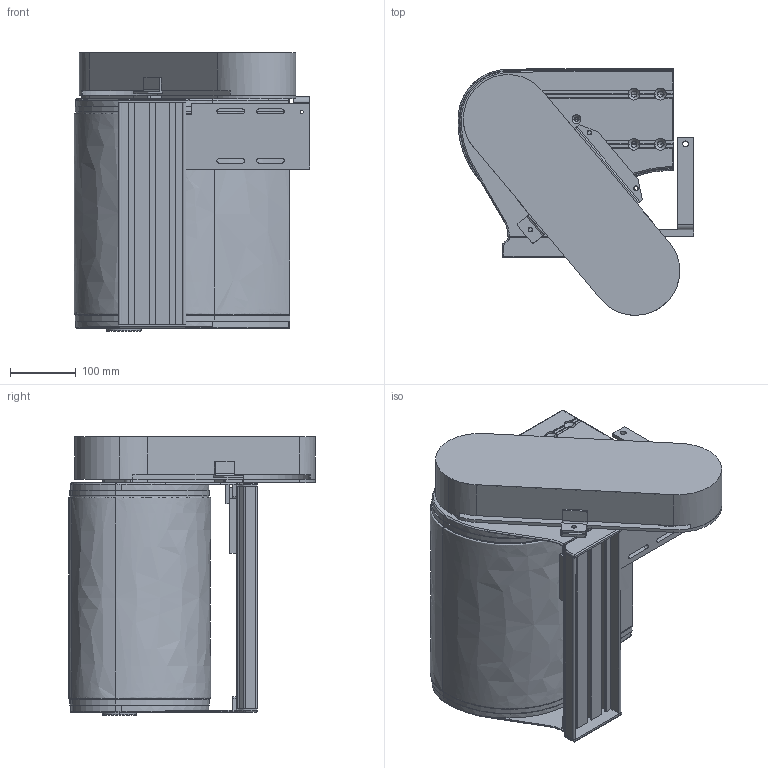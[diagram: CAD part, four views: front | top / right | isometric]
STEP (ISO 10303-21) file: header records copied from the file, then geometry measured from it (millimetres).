
FILE_DESCRIPTION (( 'STEP AP214' ), '1' );
FILE_NAME ('F2 1200 MSG20.step', '2017-04-05T06:47:42', ( '' ), ( '' ), 'SwSTEP 2.0', 'SolidWorks 2015', '' );
FILE_SCHEMA (( 'AUTOMOTIVE_DESIGN' ));
Length unit declared in the file: millimetre
Products named in the file (1): F2 1200 MSG20
Bounding box: 357.48 x 374.02 x 422.55 mm (x, y, z)
Volume: 21504386.7 mm3; surface area: 1027406.5 mm2
Topology: 8 solids, 8 shells, 819 faces, 2144 edges, 1317 vertices
Faces by surface type: cylinder 362, plane 267, torus 122, cone 40, bspline 28
Entity records: 28818 total; most frequent: CARTESIAN_POINT 7154, DIRECTION 4325, ORIENTED_EDGE 4232, EDGE_CURVE 2116, AXIS2_PLACEMENT_3D 1645, VERTEX_POINT 1317, LINE 1035, VECTOR 1035
